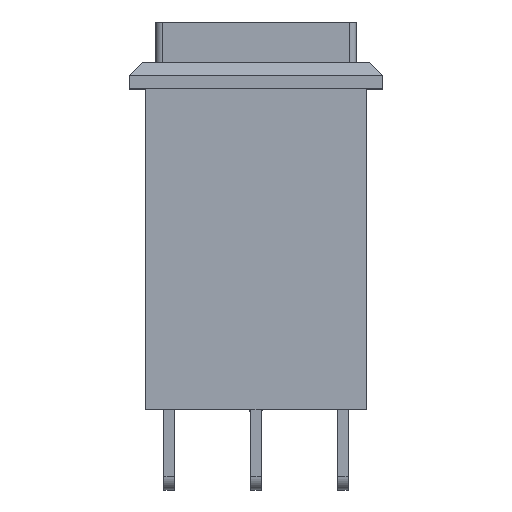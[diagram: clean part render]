
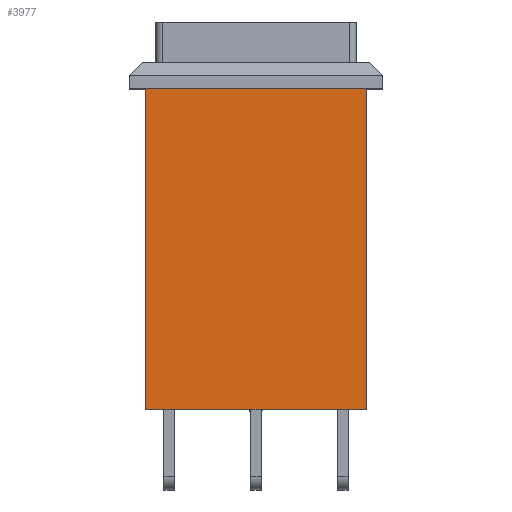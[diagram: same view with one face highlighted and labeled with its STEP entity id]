
A CAD part, top view. The second image highlights one B-rep face of the part: STEP entity #3977.
In plain terms, the highlighted planar face has unit normal (0, 0, 1).
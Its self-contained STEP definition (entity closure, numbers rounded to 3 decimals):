
#1869 = VERTEX_POINT ( 'NONE', #9890 ) ;
#1872 = EDGE_CURVE ( 'NONE', #1873, #1869, #9688, .T. ) ;
#1873 = VERTEX_POINT ( 'NONE', #9684 ) ;
#2140 = DIRECTION ( 'NONE',  ( 0., 1., 0. ) ) ;
#2141 = VECTOR ( 'NONE', #2140, 1000. ) ;
#2142 = CARTESIAN_POINT ( 'NONE',  ( -8.25, -24., 8.25 ) ) ;
#2143 = LINE ( 'NONE', #2142, #2141 ) ;
#2233 = DIRECTION ( 'NONE',  ( 1., 0., 0. ) ) ;
#2234 = DIRECTION ( 'NONE',  ( 0., 0., 1. ) ) ;
#2235 = CARTESIAN_POINT ( 'NONE',  ( -8.25, -24., 8.25 ) ) ;
#2237 = AXIS2_PLACEMENT_3D ( 'NONE', #2235, #2234, #2233 ) ;
#2238 = PLANE ( 'NONE',  #2237 ) ;
#2239 = FACE_OUTER_BOUND ( 'NONE', #3925, .T. ) ;
#2266 = DIRECTION ( 'NONE',  ( 0., 1., 0. ) ) ;
#2267 = VECTOR ( 'NONE', #2266, 1000. ) ;
#2268 = CARTESIAN_POINT ( 'NONE',  ( 8.25, -24., 8.25 ) ) ;
#2269 = LINE ( 'NONE', #2268, #2267 ) ;
#2313 = CARTESIAN_POINT ( 'NONE',  ( -8.25, 0., 8.25 ) ) ;
#2445 = DIRECTION ( 'NONE',  ( 1., 0., 0. ) ) ;
#2446 = VECTOR ( 'NONE', #2445, 1000. ) ;
#2447 = CARTESIAN_POINT ( 'NONE',  ( -8.25, 0., 8.25 ) ) ;
#2448 = LINE ( 'NONE', #2447, #2446 ) ;
#2552 = CARTESIAN_POINT ( 'NONE',  ( 8.25, 0., 8.25 ) ) ;
#3924 = EDGE_CURVE ( 'NONE', #1869, #4058, #2269, .T. ) ;
#3925 = EDGE_LOOP ( 'NONE', ( #3966, #3967, #3983, #3984 ) ) ;
#3951 = VERTEX_POINT ( 'NONE', #2313 ) ;
#3966 = ORIENTED_EDGE ( 'NONE', *, *, #4071, .F. ) ;
#3967 = ORIENTED_EDGE ( 'NONE', *, *, #3999, .F. ) ;
#3977 = ADVANCED_FACE ( 'NONE', ( #2239 ), #2238, .T. ) ;
#3983 = ORIENTED_EDGE ( 'NONE', *, *, #1872, .T. ) ;
#3984 = ORIENTED_EDGE ( 'NONE', *, *, #3924, .T. ) ;
#3999 = EDGE_CURVE ( 'NONE', #1873, #3951, #2143, .T. ) ;
#4058 = VERTEX_POINT ( 'NONE', #2552 ) ;
#4071 = EDGE_CURVE ( 'NONE', #3951, #4058, #2448, .T. ) ;
#9684 = CARTESIAN_POINT ( 'NONE',  ( -8.25, -24., 8.25 ) ) ;
#9685 = DIRECTION ( 'NONE',  ( 1., 0., 0. ) ) ;
#9686 = VECTOR ( 'NONE', #9685, 1000. ) ;
#9687 = CARTESIAN_POINT ( 'NONE',  ( -8.25, -24., 8.25 ) ) ;
#9688 = LINE ( 'NONE', #9687, #9686 ) ;
#9890 = CARTESIAN_POINT ( 'NONE',  ( 8.25, -24., 8.25 ) ) ;
